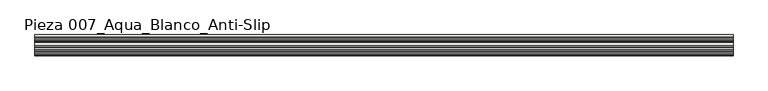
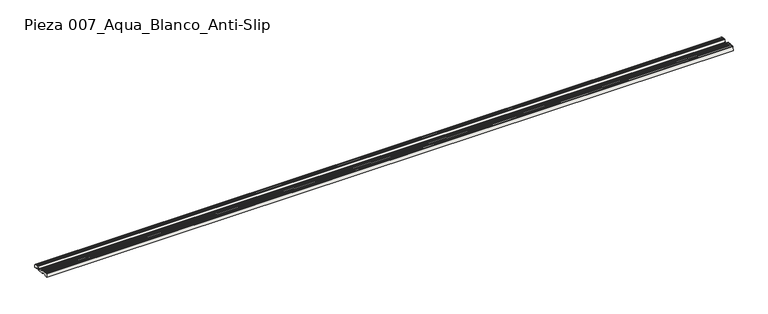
"""IFC4 building model written with IfcOpenShell, lengths in millimetres: slab geometry, ROSA GRES_007 : Pieza 007_Aqua_Blanco_Anti-Slip."""

from ifc_helpers import new_model, si_unit, point, frame, frame_2d, origin, place, context, project, spatial, polyline, circle_curve, trimmed, segment, composite_curve, outline, extrude, source, transform, mapped, element, save


def pieza_007_aqua_blanco_anti_slip_cfc82c42(model_context):
    return source(origin(), model_context, "Body", "SweptSolid", [
        extrude(outline(composite_curve([segment(trimmed(circle_curve(frame_2d((-25.9545763, 173.0767428)), 11.6464304), [point((-14.3742659, 174.3159971))], [point((-37.1820416, 176.172444))], True, "CARTESIAN"), True, "CONTINUOUS"), segment(polyline([(-37.1820416, 176.172444), (-33.8762309, 200.4746837), (-29.9345538, 200.1538709)]), True, "CONTINUOUS"), segment(trimmed(circle_curve(frame_2d((-27.3971937, 201.142641)), 2.7232081), [point((-29.9345538, 200.1538709))], [point((-24.7247274, 200.6193952))], True, "CARTESIAN"), True, "CONTINUOUS"), segment(trimmed(circle_curve(frame_2d((-20.3008643, 202.7650351)), 4.9167404), [point((-24.7247274, 200.6193952))], [point((-16.9364731, 199.1796191))], True, "CARTESIAN"), True, "CONTINUOUS"), segment(polyline([(-16.9364731, 199.1796191), (-12.7748841, 198.875801)]), True, "CONTINUOUS"), segment(trimmed(circle_curve(frame_2d((-15.1536138, 183.7870899)), 15.2750633), [point((-12.7748841, 198.875801))], [point((0.0710994, 182.547869))], False, "CARTESIAN"), True, "CONTINUOUS"), segment(polyline([(0.0710994, 182.547869), (-0.6896004, 173.202129), (-14.3742659, 174.3159971)]), True, "CONTINUOUS")], self_intersect=False)), frame((0.0, 0.0, 0.0), z_axis=(1.0, 0.0, 0.0), x_axis=(0.0, 1.0, 0.0)), (0.0, 0.0, 1.0), 3987.1379887),
        extrude(outline(composite_curve([segment(trimmed(circle_curve(frame_2d((-91.1625174, 167.3774726)), 22.5372595), [point((-71.8498608, 178.9942432))], [point((-108.342302, 181.9645582))], True, "CARTESIAN"), True, "CONTINUOUS"), segment(polyline([(-108.342302, 181.9645582), (-119.2900344, 182.8556525), (-117.4809059, 205.0820876), (-115.5338707, 204.9236084), (-115.3491545, 207.1930072), (-113.0660814, 207.0070959)]), True, "CONTINUOUS"), segment(trimmed(circle_curve(frame_2d((-109.1074243, 209.7932705)), 4.8408403), [point((-113.0660814, 207.0070959))], [point((-105.2742048, 206.836894))], True, "CARTESIAN"), True, "CONTINUOUS"), segment(trimmed(circle_curve(frame_2d((-100.9933064, 209.1504161)), 4.8660534), [point((-105.2742048, 206.836894))], [point((-97.1292049, 206.1928503))], True, "CARTESIAN"), True, "CONTINUOUS"), segment(trimmed(circle_curve(frame_2d((-92.9342908, 208.0451437)), 4.5856619), [point((-97.1292049, 206.1928503))], [point((-89.0833894, 205.555394))], True, "CARTESIAN"), True, "CONTINUOUS"), segment(trimmed(circle_curve(frame_2d((-84.8780848, 207.3839748)), 4.5856619), [point((-89.0833894, 205.555394))], [point((-81.0271834, 204.8942251))], True, "CARTESIAN"), True, "CONTINUOUS"), segment(trimmed(circle_curve(frame_2d((-76.8218788, 206.722806)), 4.5856619), [point((-81.0271834, 204.8942251))], [point((-73.3820924, 203.6902881))], True, "CARTESIAN"), True, "CONTINUOUS"), segment(polyline([(-73.3820924, 203.6902881), (-69.6579726, 203.3871621), (-69.3023399, 198.236672)]), True, "CONTINUOUS"), segment(trimmed(circle_curve(frame_2d((-57.0579989, 199.0821231)), 12.2734948), [point((-69.3023399, 198.236672))], [point((-61.867532, 187.7902205))], True, "CARTESIAN"), True, "CONTINUOUS"), segment(polyline([(-61.867532, 187.7902205), (-43.8250834, 186.3216491)]), True, "CONTINUOUS"), segment(trimmed(circle_curve(frame_2d((-43.5817022, 189.3117604)), 3.0), [point((-43.8250834, 186.3216491))], [point((-40.9402045, 187.8896178))], True, "CARTESIAN"), True, "CONTINUOUS"), segment(trimmed(circle_curve(frame_2d((-106.9597263, 233.2212806)), 80.084561), [point((-40.9402045, 187.8896178))], [point((-33.8762309, 200.4746837))], True, "CARTESIAN"), True, "CONTINUOUS"), segment(polyline([(-33.8762309, 200.4746837), (-37.1820416, 176.172444), (-71.8498608, 178.9942432)]), True, "CONTINUOUS")], self_intersect=False)), frame((0.0, 0.0, 0.0), z_axis=(1.0, 0.0, 0.0), x_axis=(0.0, 1.0, 0.0)), (0.0, 0.0, 1.0), 3987.1379887),
    ])


if __name__ == "__main__":
    model = new_model("IFC4")
    model_context = context("Model", 3, world=origin())
    ifc_project = project(units=[si_unit("LENGTHUNIT", "METRE", prefix="MILLI")], contexts=[model_context])
    site = spatial("IfcSite", under=ifc_project)
    building = spatial("IfcBuilding", under=site)
    placement = place(None, origin())
    pieza_007_aqua_blanco_anti_slip_shape = pieza_007_aqua_blanco_anti_slip_cfc82c42(model_context)
    element("IfcSlab", 1, ObjectType="ROSA GRES_007 : Pieza 007_Aqua_Blanco_Anti-Slip", at=placement, inside=building, context=model_context, shape_type="MappedRepresentation", body=[
        mapped(pieza_007_aqua_blanco_anti_slip_shape, transform((0.0, 0.0, 0.0), x_axis=(1.0, 0.0, 0.0), y_axis=(0.0, 1.0, 0.0), z_axis=(0.0, 0.0, 1.0))),
    ])
    save(model, "model.ifc")
